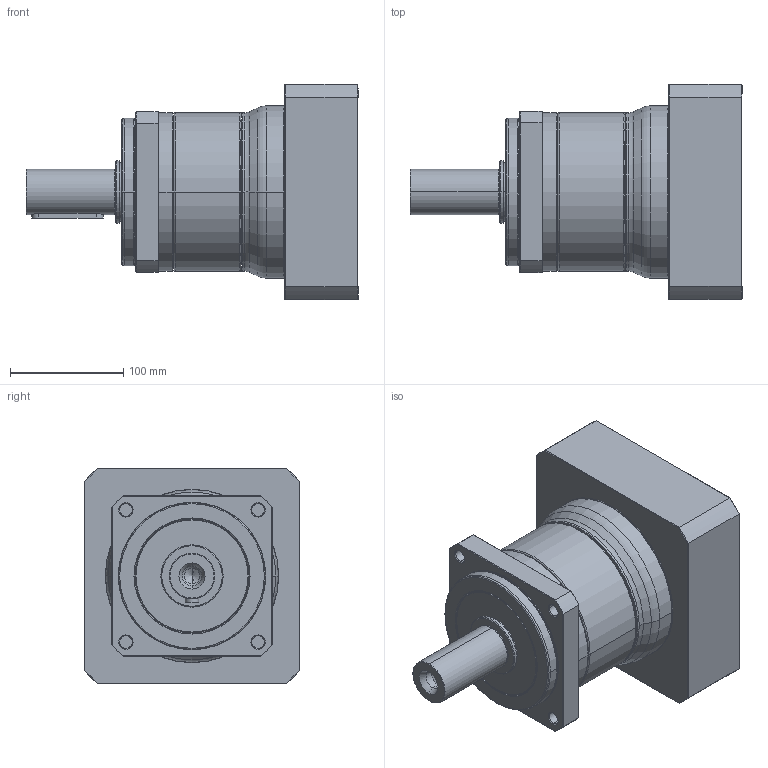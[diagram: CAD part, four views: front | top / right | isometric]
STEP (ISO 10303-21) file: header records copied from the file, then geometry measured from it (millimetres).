
FILE_DESCRIPTION((''),'2;1');
FILE_NAME('PA2-142_1ST_42-P0411A00101_ASM','2016-05-06T',('d01943'),(''),'PRO/ENGINEER BY PARAMETRIC TECHNOLOGY CORPORATION, 2008410','PRO/ENGINEER BY PARAMETRIC TECHNOLOGY CORPORATION, 2008410','');
FILE_SCHEMA(('CONFIG_CONTROL_DESIGN'));
Length unit declared in the file: millimetre
Products named in the file (9): P1327510001; P0250500001; P1324500601; P0350500601; P0941506001; P0503A00012; P0411A00101; P1702700001; PA2-142_1ST_42-P0411A00101_ASM
Assembly tree (8 placements, depth 2):
  PA2-142_1ST_42-P0411A00101_ASM
    P1327510001
    P0250500001
    P1324500601
    P0350500601
    P0941506001
    P0503A00012
    P0411A00101
    P1702700001
Bounding box: 293 x 190 x 190 mm (x, y, z)
Volume: 3555269.9 mm3; surface area: 436549.2 mm2
Topology: 8 solids, 8 shells, 455 faces, 996 edges, 576 vertices
Faces by surface type: cone 142, cylinder 127, plane 86, torus 84, bspline 16
Entity records: 17210 total; most frequent: CARTESIAN_POINT 6966, DIRECTION 2312, ORIENTED_EDGE 1952, AXIS2_PLACEMENT_3D 985, EDGE_CURVE 976, VERTEX_POINT 576, CIRCLE 529, EDGE_LOOP 518
